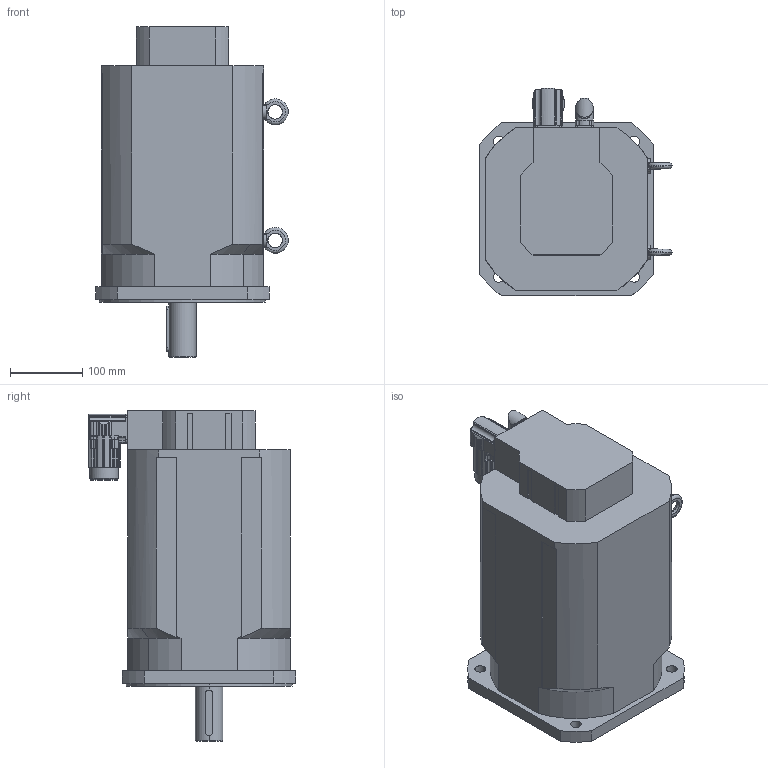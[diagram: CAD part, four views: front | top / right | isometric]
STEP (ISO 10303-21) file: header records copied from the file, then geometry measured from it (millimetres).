
FILE_DESCRIPTION(('STEP AP203'),'2;1');
FILE_NAME('MT8-0680.stp','2006-08-28T20:33:11',(''),(''),'2005.2.102','THINKDESIGN','');
FILE_SCHEMA(('CONFIG_CONTROL_DESIGN'));
Length unit declared in the file: millimetre
Bounding box: 266.5 x 287.18 x 458 mm (x, y, z)
Volume: 16627427.4 mm3; surface area: 472625.7 mm2
Topology: 5 solids, 5 shells, 540 faces, 1452 edges, 933 vertices
Faces by surface type: cylinder 257, plane 192, bspline 91
Full cylindrical faces by diameter (mm): 23 x1, 37.8 x1, 40 x1
Entity records: 19457 total; most frequent: CARTESIAN_POINT 6040, ORIENTED_EDGE 2892, DIRECTION 2772, EDGE_CURVE 1446, AXIS2_PLACEMENT_3D 1051, VERTEX_POINT 933, VECTOR 670, LINE 670
